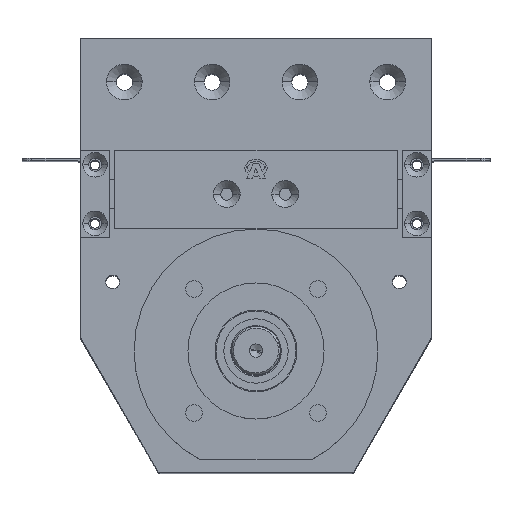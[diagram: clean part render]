
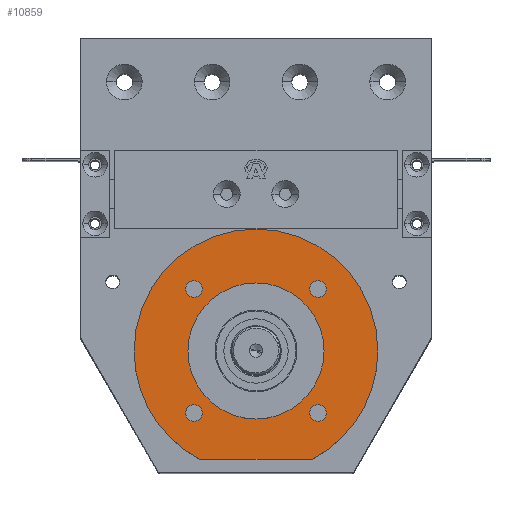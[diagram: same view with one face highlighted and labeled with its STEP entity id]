
A CAD part, top view. The second image highlights one B-rep face of the part: STEP entity #10859.
In plain terms, the highlighted planar face has unit normal (0, 0, 1) as drawn and (-1, 0, 0) by its records, which use the part's own axes.
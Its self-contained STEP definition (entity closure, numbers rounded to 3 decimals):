
#200 = VERTEX_POINT ( 'NONE', #1657 ) ;
#421 = VERTEX_POINT ( 'NONE', #472 ) ;
#472 = CARTESIAN_POINT ( 'NONE',  ( 2., -55.5, 28.74 ) ) ;
#747 = ORIENTED_EDGE ( 'NONE', *, *, #15299, .T. ) ;
#1125 = DIRECTION ( 'NONE',  ( 0., 0., 1. ) ) ;
#1146 = PLANE ( 'NONE',  #16237 ) ;
#1231 = AXIS2_PLACEMENT_3D ( 'NONE', #16009, #13089, #19291 ) ;
#1258 = FACE_BOUND ( 'NONE', #12691, .T. ) ;
#1534 = VERTEX_POINT ( 'NONE', #18385 ) ;
#1657 = CARTESIAN_POINT ( 'NONE',  ( 2., 31.82, 27.57 ) ) ;
#1834 = EDGE_LOOP ( 'NONE', ( #10261, #18347 ) ) ;
#2092 = DIRECTION ( 'NONE',  ( 0., 0., -1. ) ) ;
#2133 = DIRECTION ( 'NONE',  ( 0., 0., 1. ) ) ;
#2416 = ORIENTED_EDGE ( 'NONE', *, *, #12324, .T. ) ;
#2486 = CARTESIAN_POINT ( 'NONE',  ( 2., -55.5, 28.74 ) ) ;
#2767 = DIRECTION ( 'NONE',  ( 0., 0., -1. ) ) ;
#3070 = CARTESIAN_POINT ( 'NONE',  ( 2., 31.82, 31.82 ) ) ;
#3289 = DIRECTION ( 'NONE',  ( 1., 0., 0. ) ) ;
#3425 = DIRECTION ( 'NONE',  ( 0., 0., 1. ) ) ;
#3634 = CARTESIAN_POINT ( 'NONE',  ( 2., 31.82, -36.07 ) ) ;
#3804 = DIRECTION ( 'NONE',  ( 1., 0., 0. ) ) ;
#3891 = AXIS2_PLACEMENT_3D ( 'NONE', #10307, #15167, #5602 ) ;
#4030 = EDGE_CURVE ( 'NONE', #16961, #8938, #7698, .T. ) ;
#4141 = DIRECTION ( 'NONE',  ( 0., 0., -1. ) ) ;
#4364 = CIRCLE ( 'NONE', #18420, 4.25 ) ;
#4378 = DIRECTION ( 'NONE',  ( 1., 0., 0. ) ) ;
#4550 = EDGE_CURVE ( 'NONE', #9649, #8220, #4919, .T. ) ;
#4711 = CIRCLE ( 'NONE', #18902, 62.5 ) ;
#4717 = AXIS2_PLACEMENT_3D ( 'NONE', #13657, #15457, #4141 ) ;
#4919 = CIRCLE ( 'NONE', #7954, 34.9 ) ;
#5012 = EDGE_CURVE ( 'NONE', #6395, #200, #19211, .T. ) ;
#5104 = VERTEX_POINT ( 'NONE', #3634 ) ;
#5253 = CIRCLE ( 'NONE', #1231, 4.25 ) ;
#5339 = VERTEX_POINT ( 'NONE', #18778 ) ;
#5363 = CARTESIAN_POINT ( 'NONE',  ( 2., 0., 0. ) ) ;
#5602 = DIRECTION ( 'NONE',  ( 0., 0., 1. ) ) ;
#5634 = ORIENTED_EDGE ( 'NONE', *, *, #15263, .T. ) ;
#5904 = AXIS2_PLACEMENT_3D ( 'NONE', #3070, #9256, #9402 ) ;
#6011 = VERTEX_POINT ( 'NONE', #19541 ) ;
#6395 = VERTEX_POINT ( 'NONE', #17913 ) ;
#6766 = ORIENTED_EDGE ( 'NONE', *, *, #20815, .T. ) ;
#7120 = EDGE_CURVE ( 'NONE', #8220, #9649, #20381, .T. ) ;
#7333 = ORIENTED_EDGE ( 'NONE', *, *, #7120, .F. ) ;
#7565 = DIRECTION ( 'NONE',  ( 0., 0., -1. ) ) ;
#7698 = CIRCLE ( 'NONE', #10800, 4.25 ) ;
#7754 = CARTESIAN_POINT ( 'NONE',  ( 2., 62.5, 0. ) ) ;
#7802 = FACE_BOUND ( 'NONE', #8702, .T. ) ;
#7826 = ORIENTED_EDGE ( 'NONE', *, *, #13421, .F. ) ;
#7954 = AXIS2_PLACEMENT_3D ( 'NONE', #10287, #16631, #19612 ) ;
#8193 = CIRCLE ( 'NONE', #3891, 62.5 ) ;
#8209 = CARTESIAN_POINT ( 'NONE',  ( 2., 0., 0. ) ) ;
#8220 = VERTEX_POINT ( 'NONE', #12752 ) ;
#8259 = ORIENTED_EDGE ( 'NONE', *, *, #4030, .T. ) ;
#8274 = CARTESIAN_POINT ( 'NONE',  ( 2., 31.82, 31.82 ) ) ;
#8285 = VERTEX_POINT ( 'NONE', #19565 ) ;
#8702 = EDGE_LOOP ( 'NONE', ( #747, #16817 ) ) ;
#8931 = DIRECTION ( 'NONE',  ( 0., 0., -1. ) ) ;
#8938 = VERTEX_POINT ( 'NONE', #19272 ) ;
#9256 = DIRECTION ( 'NONE',  ( 1., 0., 0. ) ) ;
#9402 = DIRECTION ( 'NONE',  ( 0., 0., -1. ) ) ;
#9649 = VERTEX_POINT ( 'NONE', #15952 ) ;
#9889 = CIRCLE ( 'NONE', #4717, 4.25 ) ;
#9890 = DIRECTION ( 'NONE',  ( 0., 0., -1. ) ) ;
#9891 = AXIS2_PLACEMENT_3D ( 'NONE', #8209, #16162, #3425 ) ;
#10231 = DIRECTION ( 'NONE',  ( 1., 0., 0. ) ) ;
#10261 = ORIENTED_EDGE ( 'NONE', *, *, #12775, .T. ) ;
#10287 = CARTESIAN_POINT ( 'NONE',  ( 2., 0., 0. ) ) ;
#10307 = CARTESIAN_POINT ( 'NONE',  ( 2., 0., 0. ) ) ;
#10400 = DIRECTION ( 'NONE',  ( 1., 0., 0. ) ) ;
#10800 = AXIS2_PLACEMENT_3D ( 'NONE', #16364, #10231, #2092 ) ;
#10859 = ADVANCED_FACE ( 'NONE', ( #14290, #12064, #1258, #7802, #19588, #15272 ), #1146, .F. ) ;
#11144 = EDGE_CURVE ( 'NONE', #1534, #20122, #20070, .T. ) ;
#11462 = DIRECTION ( 'NONE',  ( -1., 0., 0. ) ) ;
#11744 = AXIS2_PLACEMENT_3D ( 'NONE', #8274, #3289, #9890 ) ;
#12064 = FACE_BOUND ( 'NONE', #1834, .T. ) ;
#12324 = EDGE_CURVE ( 'NONE', #20122, #5339, #4711, .T. ) ;
#12452 = CARTESIAN_POINT ( 'NONE',  ( 2., -31.82, 31.82 ) ) ;
#12490 = CARTESIAN_POINT ( 'NONE',  ( 2., 0., -62.5 ) ) ;
#12676 = CARTESIAN_POINT ( 'NONE',  ( 2., -31.82, 27.57 ) ) ;
#12691 = EDGE_LOOP ( 'NONE', ( #6766, #17675 ) ) ;
#12752 = CARTESIAN_POINT ( 'NONE',  ( 2., 0., 34.9 ) ) ;
#12775 = EDGE_CURVE ( 'NONE', #20819, #8285, #14969, .T. ) ;
#13089 = DIRECTION ( 'NONE',  ( 1., 0., 0. ) ) ;
#13132 = AXIS2_PLACEMENT_3D ( 'NONE', #20146, #10400, #16938 ) ;
#13173 = EDGE_LOOP ( 'NONE', ( #20388, #14979, #2416, #7826 ) ) ;
#13320 = AXIS2_PLACEMENT_3D ( 'NONE', #5363, #11462, #2133 ) ;
#13398 = CARTESIAN_POINT ( 'NONE',  ( 2., -31.82, -31.82 ) ) ;
#13421 = EDGE_CURVE ( 'NONE', #421, #5339, #14705, .T. ) ;
#13528 = DIRECTION ( 'NONE',  ( 0., 0., -1. ) ) ;
#13566 = CARTESIAN_POINT ( 'NONE',  ( 2., -31.82, -27.57 ) ) ;
#13657 = CARTESIAN_POINT ( 'NONE',  ( 2., 31.82, -31.82 ) ) ;
#14165 = CIRCLE ( 'NONE', #13132, 4.25 ) ;
#14290 = FACE_BOUND ( 'NONE', #20489, .T. ) ;
#14513 = EDGE_CURVE ( 'NONE', #8285, #20819, #14165, .T. ) ;
#14705 = LINE ( 'NONE', #2486, #20519 ) ;
#14969 = CIRCLE ( 'NONE', #20126, 4.25 ) ;
#14979 = ORIENTED_EDGE ( 'NONE', *, *, #11144, .T. ) ;
#15096 = CIRCLE ( 'NONE', #5904, 4.25 ) ;
#15167 = DIRECTION ( 'NONE',  ( -1., 0., 0. ) ) ;
#15263 = EDGE_CURVE ( 'NONE', #8938, #16961, #4364, .T. ) ;
#15264 = DIRECTION ( 'NONE',  ( -1., 0., 0. ) ) ;
#15272 = FACE_OUTER_BOUND ( 'NONE', #13173, .T. ) ;
#15299 = EDGE_CURVE ( 'NONE', #5104, #6011, #9889, .T. ) ;
#15457 = DIRECTION ( 'NONE',  ( 1., 0., 0. ) ) ;
#15710 = DIRECTION ( 'NONE',  ( 1., 0., 0. ) ) ;
#15952 = CARTESIAN_POINT ( 'NONE',  ( 2., 0., -34.9 ) ) ;
#16009 = CARTESIAN_POINT ( 'NONE',  ( 2., 31.82, -31.82 ) ) ;
#16162 = DIRECTION ( 'NONE',  ( -1., 0., 0. ) ) ;
#16237 = AXIS2_PLACEMENT_3D ( 'NONE', #7754, #4378, #2767 ) ;
#16364 = CARTESIAN_POINT ( 'NONE',  ( 2., -31.82, -31.82 ) ) ;
#16631 = DIRECTION ( 'NONE',  ( -1., 0., 0. ) ) ;
#16657 = EDGE_CURVE ( 'NONE', #6011, #5104, #5253, .T. ) ;
#16817 = ORIENTED_EDGE ( 'NONE', *, *, #16657, .T. ) ;
#16913 = ORIENTED_EDGE ( 'NONE', *, *, #4550, .F. ) ;
#16938 = DIRECTION ( 'NONE',  ( 0., 0., -1. ) ) ;
#16961 = VERTEX_POINT ( 'NONE', #13566 ) ;
#17675 = ORIENTED_EDGE ( 'NONE', *, *, #5012, .T. ) ;
#17913 = CARTESIAN_POINT ( 'NONE',  ( 2., 31.82, 36.07 ) ) ;
#18347 = ORIENTED_EDGE ( 'NONE', *, *, #14513, .T. ) ;
#18385 = CARTESIAN_POINT ( 'NONE',  ( 2., 0., 62.5 ) ) ;
#18420 = AXIS2_PLACEMENT_3D ( 'NONE', #13398, #3804, #13528 ) ;
#18672 = CARTESIAN_POINT ( 'NONE',  ( 2., 0., 0. ) ) ;
#18679 = EDGE_CURVE ( 'NONE', #421, #1534, #8193, .T. ) ;
#18778 = CARTESIAN_POINT ( 'NONE',  ( 2., -55.5, -28.74 ) ) ;
#18902 = AXIS2_PLACEMENT_3D ( 'NONE', #18672, #15264, #1125 ) ;
#19211 = CIRCLE ( 'NONE', #11744, 4.25 ) ;
#19272 = CARTESIAN_POINT ( 'NONE',  ( 2., -31.82, -36.07 ) ) ;
#19291 = DIRECTION ( 'NONE',  ( 0., 0., -1. ) ) ;
#19387 = EDGE_LOOP ( 'NONE', ( #7333, #16913 ) ) ;
#19541 = CARTESIAN_POINT ( 'NONE',  ( 2., 31.82, -27.57 ) ) ;
#19565 = CARTESIAN_POINT ( 'NONE',  ( 2., -31.82, 36.07 ) ) ;
#19588 = FACE_BOUND ( 'NONE', #19387, .T. ) ;
#19612 = DIRECTION ( 'NONE',  ( 0., 0., 1. ) ) ;
#20070 = CIRCLE ( 'NONE', #13320, 62.5 ) ;
#20122 = VERTEX_POINT ( 'NONE', #12490 ) ;
#20126 = AXIS2_PLACEMENT_3D ( 'NONE', #12452, #15710, #7565 ) ;
#20146 = CARTESIAN_POINT ( 'NONE',  ( 2., -31.82, 31.82 ) ) ;
#20381 = CIRCLE ( 'NONE', #9891, 34.9 ) ;
#20388 = ORIENTED_EDGE ( 'NONE', *, *, #18679, .T. ) ;
#20489 = EDGE_LOOP ( 'NONE', ( #5634, #8259 ) ) ;
#20519 = VECTOR ( 'NONE', #8931, 1000. ) ;
#20815 = EDGE_CURVE ( 'NONE', #200, #6395, #15096, .T. ) ;
#20819 = VERTEX_POINT ( 'NONE', #12676 ) ;
